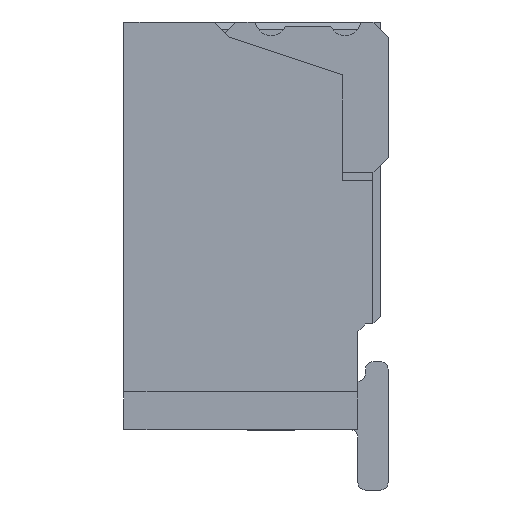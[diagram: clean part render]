
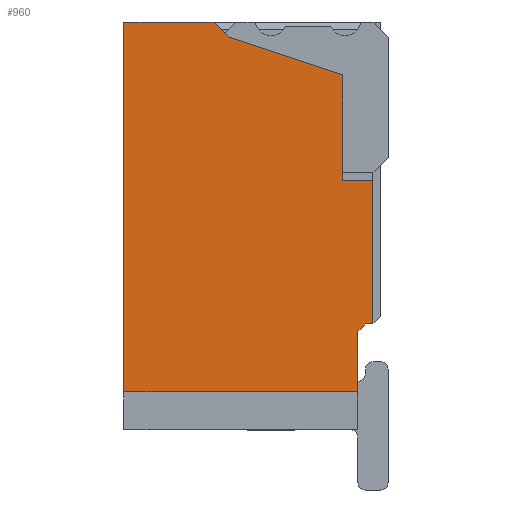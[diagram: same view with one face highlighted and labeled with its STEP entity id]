
A CAD part, left-side view. The second image highlights one B-rep face of the part: STEP entity #960.
In plain terms, the highlighted planar face has unit normal (-1, 0, 0).
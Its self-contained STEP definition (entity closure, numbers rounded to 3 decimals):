
#10=CARTESIAN_POINT('',(-0.01,0.,0.));
#20=DIRECTION('',(1.,0.,0.));
#30=DIRECTION('',(0.,-1.,0.));
#40=AXIS2_PLACEMENT_3D('',#10,#20,#30);
#50=PLANE('',#40);
#60=CARTESIAN_POINT('',(-0.01,0.7,0.));
#70=DIRECTION('',(0.,0.,1.));
#80=VECTOR('',#70,1.);
#90=LINE('',#60,#80);
#100=CARTESIAN_POINT('',(-0.01,0.7,-0.1));
#110=VERTEX_POINT('',#100);
#120=CARTESIAN_POINT('',(-0.01,0.7,-0.05));
#130=VERTEX_POINT('',#120);
#140=EDGE_CURVE('',#110,#130,#90,.T.);
#150=ORIENTED_EDGE('',*,*,#140,.T.);
#160=CARTESIAN_POINT('',(-0.01,0.8,0.));
#170=DIRECTION('',(0.,-0.707,-0.707));
#180=VECTOR('',#170,1.);
#190=LINE('',#160,#180);
#200=CARTESIAN_POINT('',(-0.01,0.65,-0.15));
#210=VERTEX_POINT('',#200);
#220=EDGE_CURVE('',#110,#210,#190,.T.);
#230=ORIENTED_EDGE('',*,*,#220,.F.);
#240=CARTESIAN_POINT('',(-0.01,0.,-0.15));
#250=DIRECTION('',(0.,1.,0.));
#260=VECTOR('',#250,1.);
#270=LINE('',#240,#260);
#280=CARTESIAN_POINT('',(-0.01,0.25,-0.15));
#290=VERTEX_POINT('',#280);
#300=EDGE_CURVE('',#290,#210,#270,.T.);
#310=ORIENTED_EDGE('',*,*,#300,.T.);
#320=CARTESIAN_POINT('',(-0.01,0.25,0.));
#330=DIRECTION('',(0.,0.,-1.));
#340=VECTOR('',#330,1.);
#350=LINE('',#320,#340);
#360=CARTESIAN_POINT('',(-0.01,0.25,-1.7));
#370=VERTEX_POINT('',#360);
#380=EDGE_CURVE('',#290,#370,#350,.T.);
#390=ORIENTED_EDGE('',*,*,#380,.F.);
#400=CARTESIAN_POINT('',(-0.01,0.,-1.7));
#410=DIRECTION('',(0.,1.,0.));
#420=VECTOR('',#410,1.);
#430=LINE('',#400,#420);
#440=CARTESIAN_POINT('',(-0.01,2.7,-1.7));
#450=VERTEX_POINT('',#440);
#460=EDGE_CURVE('',#370,#450,#430,.T.);
#470=ORIENTED_EDGE('',*,*,#460,.F.);
#480=CARTESIAN_POINT('',(-0.01,2.7,0.));
#490=DIRECTION('',(0.,0.,1.));
#500=VECTOR('',#490,1.);
#510=LINE('',#480,#500);
#520=CARTESIAN_POINT('',(-0.01,2.7,-1.1));
#530=VERTEX_POINT('',#520);
#540=EDGE_CURVE('',#450,#530,#510,.T.);
#550=ORIENTED_EDGE('',*,*,#540,.F.);
#560=CARTESIAN_POINT('',(-0.01,1.6,0.));
#570=DIRECTION('',(0.,0.707,-0.707));
#580=VECTOR('',#570,1.);
#590=LINE('',#560,#580);
#600=CARTESIAN_POINT('',(-0.01,2.6,
-1.));
#610=VERTEX_POINT('',#600);
#620=EDGE_CURVE('',#610,#530,#590,.T.);
#630=ORIENTED_EDGE('',*,*,#620,.T.);
#640=CARTESIAN_POINT('',(-0.01,2.267,0.));
#650=DIRECTION('',(0.,-0.316,0.949));
#660=VECTOR('',#650,1.);
#670=LINE('',#640,#660);
#680=CARTESIAN_POINT('',(-0.01,2.35,-0.25));
#690=VERTEX_POINT('',#680);
#700=EDGE_CURVE('',#610,#690,#670,.T.);
#710=ORIENTED_EDGE('',*,*,#700,.F.);
#720=CARTESIAN_POINT('',(-0.01,0.,-0.25));
#730=DIRECTION('',(0.,-1.,0.));
#740=VECTOR('',#730,1.);
#750=LINE('',#720,#740);
#760=CARTESIAN_POINT('',(-0.01,1.65,-0.25));
#770=VERTEX_POINT('',#760);
#780=EDGE_CURVE('',#690,#770,#750,.T.);
#790=ORIENTED_EDGE('',*,*,#780,.F.);
#800=CARTESIAN_POINT('',(-0.01,1.65,0.));
#810=DIRECTION('',(0.,0.,-1.));
#820=VECTOR('',#810,1.);
#830=LINE('',#800,#820);
#840=CARTESIAN_POINT('',(-0.01,1.65,-0.05));
#850=VERTEX_POINT('',#840);
#860=EDGE_CURVE('',#850,#770,#830,.T.);
#870=ORIENTED_EDGE('',*,*,#860,.T.);
#880=CARTESIAN_POINT('',(-0.01,0.,-0.05));
#890=DIRECTION('',(0.,-1.,0.));
#900=VECTOR('',#890,1.);
#910=LINE('',#880,#900);
#920=EDGE_CURVE('',#850,#130,#910,.T.);
#930=ORIENTED_EDGE('',*,*,#920,.F.);
#940=EDGE_LOOP('',(#930,#870,#790,#710,#630,#550,#470,#390,#310,#230,
#150));
#950=FACE_OUTER_BOUND('',#940,.T.);
#960=ADVANCED_FACE('',(#950),#50,.F.);
